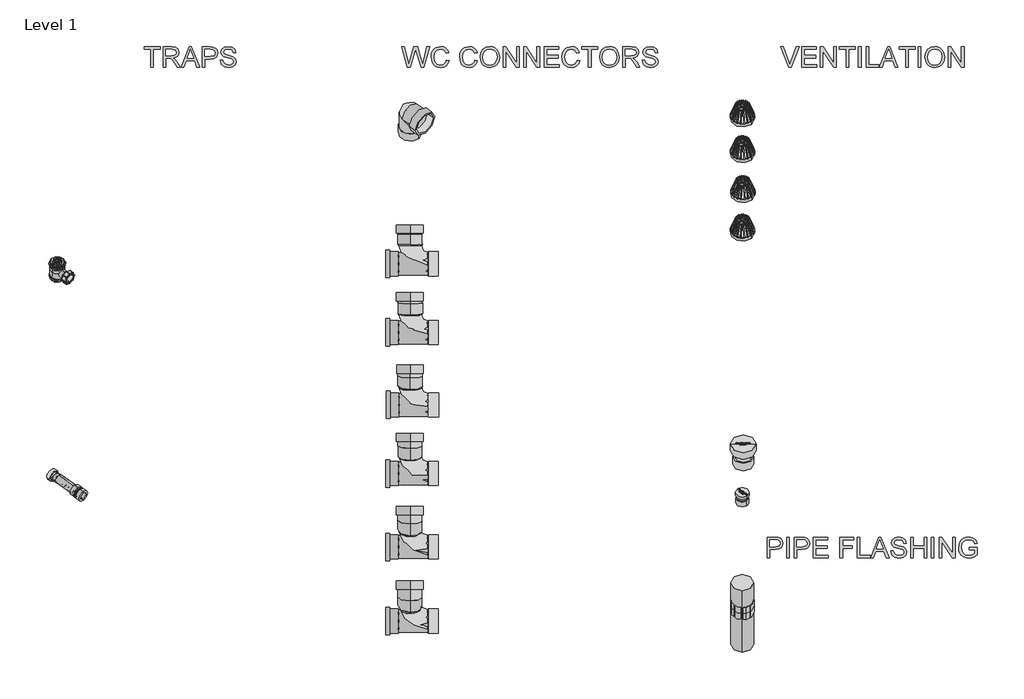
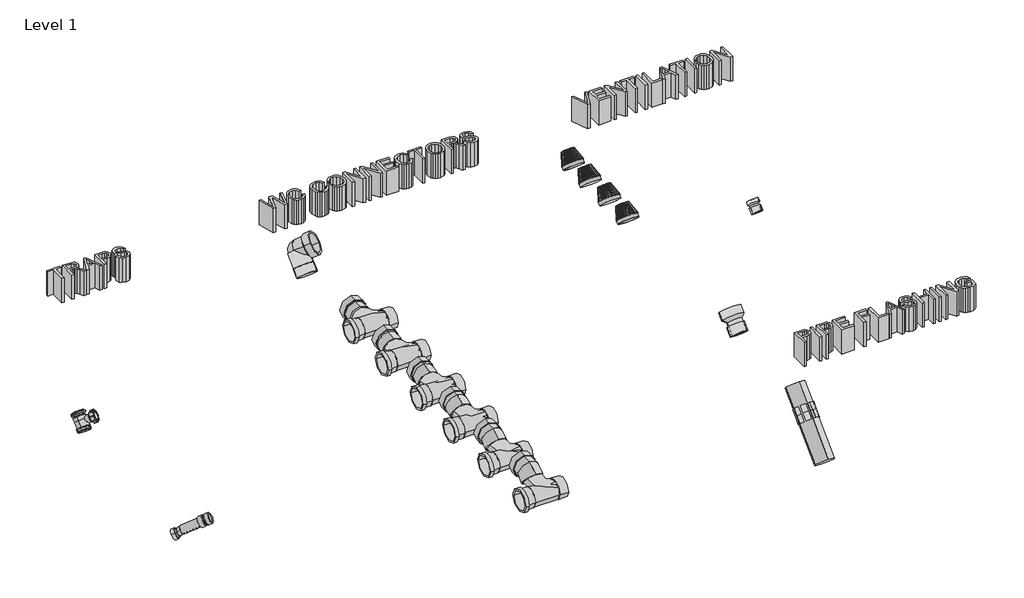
# One storey, incomplete: 16 pipe fittings, 4 proxies, 1 pipe segment, 1 valve.
"""IFC4 building model written with IfcOpenShell, lengths in millimetres."""

from ifc_helpers import new_model, si_unit, point, frame, frame_2d, origin, origin_with_axes, place, context, project, spatial, polyline, circle_curve, trimmed, segment, composite_curve, outline, extrude, transform, mapped, element, save
from components import pipe_fitting_c52e34fa, pipe_fitting_864deae3, pipe_fitting_f842854c, pipe_fitting_1e764480, pipe_fitting_d5c03c71, pipe_fitting_f81a362b, pipe_fitting_5220689f, pipe_fitting_509c5175, pipe_fitting_8c2a417e, pipe_fitting_55bd5c23, shower_trap_40_e6af812f, straight_f1ba9349, wc_connector_90_f06ec1d6, var_de22d4bc, var_55d9fc44

model = new_model("IFC4")

# Units and contexts
model_context = context("Model", 3, world=origin())
ifc_project = project(units=[si_unit("LENGTHUNIT", "METRE", prefix="MILLI")], contexts=[model_context])

# Site, building, storey
site = spatial("IfcSite", under=ifc_project)
building = spatial("IfcBuilding", under=site)
storey = spatial("IfcBuildingStorey", under=building, Name="Level 1", Elevation=0.0)

# Proxies
placement = place(None, origin())
element("IfcBuildingElementProxy", 1, Name="Wavin Types", ObjectType="Wavin Types", at=placement, inside=storey, context=model_context, shape_type="SweptSolid", body=[
    extrude(outline(polyline([(1715.790358, 3300.2326702), (1715.790358, 3386.3865164), (1683.4826657, 3386.3865164), (1683.4826657, 3398.6942087), (1760.4057427, 3398.6942087), (1760.4057427, 3386.3865164), (1728.0980504, 3386.3865164), (1728.0980504, 3300.2326702), (1715.790358, 3300.2326702)])), origin_with_axes(), (0.0, 0.0, 1.0), 150.0),
    extrude(outline(polyline([(1774.2518965, 3300.2326702), (1774.2518965, 3398.6942087), (1816.6797811, 3398.6942087), (1836.3793004, 3396.0379587), (1847.1485311, 3386.6389202), (1851.1749734, 3371.7470933), (1849.5073052, 3362.0475741), (1844.5043004, 3354.0067087), (1836.0157186, 3348.111276), (1823.8913196, 3344.8480549), (1830.8865119, 3339.5836318), (1840.8624734, 3326.9153625), (1857.2807427, 3300.2326702), (1842.977858, 3300.2326702), (1830.165358, 3320.6413241), (1820.9105504, 3334.1509395), (1814.4081465, 3340.533151), (1808.5547811, 3342.876901), (1801.415358, 3343.3095933), (1786.5595888, 3343.3095933), (1786.5595888, 3300.2326702), (1774.2518965, 3300.2326702)]), holes=[polyline([(1786.5595888, 3355.6172856), (1814.1076657, 3355.6172856), (1828.1581465, 3357.3600741), (1836.1389157, 3362.9369972), (1838.8672811, 3371.2903625), (1833.6629542, 3382.1317087), (1817.2086273, 3386.3865164), (1786.5595888, 3386.3865164), (1786.5595888, 3355.6172856)])]), origin_with_axes(), (0.0, 0.0, 1.0), 150.0),
    extrude(outline(polyline([(1861.2470888, 3300.2326702), (1900.5499734, 3398.6942087), (1911.0307427, 3398.6942087), (1950.3336273, 3300.2326702), (1937.3288196, 3300.2326702), (1926.0547811, 3331.001901), (1885.5018965, 3331.001901), (1874.2518965, 3300.2326702), (1861.2470888, 3300.2326702)]), holes=[polyline([(1890.0211273, 3343.3095933), (1921.5595888, 3343.3095933), (1912.6893965, 3367.5163241), (1905.790358, 3386.3865164), (1899.6605504, 3369.6317087), (1890.0211273, 3343.3095933)])]), origin_with_axes(), (0.0, 0.0, 1.0), 150.0),
    extrude(outline(polyline([(1963.4826657, 3300.2326702), (1963.4826657, 3398.6942087), (1999.9730504, 3398.6942087), (2014.6845888, 3397.7567087), (2026.6437234, 3393.1533433), (2034.3961273, 3383.6341125), (2037.3288196, 3370.2086318), (2035.3486513, 3358.6040645), (2029.4081465, 3348.9345933), (2018.2993725, 3342.408151), (2000.8143965, 3340.2326702), (1975.790358, 3340.2326702), (1975.790358, 3300.2326702), (1963.4826657, 3300.2326702)]), holes=[polyline([(1975.790358, 3352.5403625), (2001.5355504, 3352.5403625), (2019.6605504, 3357.0595933), (2023.680983, 3362.4982952), (2025.0211273, 3369.7759395), (2021.8600696, 3379.9682472), (2013.5547811, 3385.5451702), (2001.2470888, 3386.3865164), (1975.790358, 3386.3865164), (1975.790358, 3352.5403625)])]), origin_with_axes(), (0.0, 0.0, 1.0), 150.0),
    extrude(outline(polyline([(2049.6365119, 3334.0788241), (2061.9442042, 3334.0788241), (2065.9105504, 3321.7591125), (2075.5980504, 3313.970651), (2090.3576657, 3311.001901), (2103.2182427, 3313.2494972), (2111.5235311, 3319.4273818), (2114.2518965, 3327.6845933), (2112.2086273, 3335.3648818), (2103.8432427, 3340.9538241), (2085.9225696, 3345.6533433), (2066.6317042, 3351.7230549), (2056.1629542, 3360.8817087), (2052.713435, 3373.1172856), (2056.9802619, 3387.0475741), (2069.4442042, 3396.8793049), (2087.6893965, 3400.2326702), (2107.1605504, 3396.7230549), (2120.1413196, 3386.4105549), (2125.0211273, 3371.001901), (2112.713435, 3371.001901), (2105.7422811, 3383.6461318), (2088.1701657, 3387.9249779), (2070.5499734, 3383.6942087), (2065.0211273, 3373.4778625), (2068.9393965, 3364.9442087), (2089.0355504, 3358.0692087), (2110.8143965, 3351.8913241), (2122.7254542, 3341.9153625), (2126.5595888, 3327.9970933), (2122.1485311, 3313.2735356), (2109.4562234, 3302.5283433), (2090.838435, 3298.6942087), (2068.8552619, 3302.8288241), (2054.9490119, 3315.2807472), (2049.6365119, 3334.0788241)])), origin_with_axes(), (0.0, 0.0, 1.0), 150.0),
])
element("IfcBuildingElementProxy", 2, Name="Wavin Types", ObjectType="Wavin Types", at=placement, inside=storey, context=model_context, shape_type="SweptSolid", body=[
    extrude(outline(polyline([(2949.6017625, 3300.2326702), (2922.750801, 3398.6942087), (2935.4431087, 3398.6942087), (2951.0200318, 3333.9826702), (2955.8277241, 3314.0067087), (2960.9719549, 3331.6749779), (2980.4911856, 3398.6942087), (2998.7844549, 3398.6942087), (3012.9671472, 3350.1124779), (3023.5200318, 3314.0067087), (3028.1834933, 3333.4057472), (3043.9046472, 3398.6942087), (3056.5969549, 3398.6942087), (3029.7219549, 3300.2326702), (3016.5729164, 3300.2326702), (2992.9671472, 3376.1942087), (2989.6738779, 3386.7951702), (2985.9719549, 3374.0307472), (2964.4575318, 3300.2326702), (2949.6017625, 3300.2326702)])), origin_with_axes(), (0.0, 0.0, 1.0), 150.0),
    extrude(outline(polyline([(3138.1354164, 3335.2326702), (3150.4431087, 3332.0595933), (3144.7640222, 3317.7176462), (3135.8517625, 3307.2398818), (3124.1450318, 3300.830627), (3110.0825318, 3298.6942087), (3095.8066904, 3300.3107952), (3084.469551, 3305.1605549), (3075.7796472, 3313.0752183), (3069.4455125, 3323.8865164), (3064.2892625, 3350.2086318), (3065.7465943, 3364.5656029), (3070.1185895, 3376.9634395), (3077.1768827, 3387.0085116), (3086.6931087, 3394.3071895), (3110.3469549, 3400.2326702), (3123.8415462, 3398.3156029), (3134.9983972, 3392.564401), (3143.46895, 3383.3336318), (3148.9046472, 3370.9778625), (3136.5969549, 3368.0451702), (3126.500801, 3383.1773818), (3109.8661856, 3387.9249779), (3090.6113779, 3382.6605549), (3079.7339741, 3368.5259395), (3076.5969549, 3350.2326702), (3080.3108972, 3329.0307472), (3091.8733972, 3315.4850741), (3108.8565702, 3311.001901), (3119.1300077, 3312.5283433), (3127.6907049, 3317.1076702), (3134.1540462, 3324.6918049), (3138.1354164, 3335.2326702)])), origin_with_axes(), (0.0, 0.0, 1.0), 150.0),
    extrude(outline(polyline([(3275.0584933, 3335.2326702), (3287.3661856, 3332.0595933), (3281.6870991, 3317.7176462), (3272.7748395, 3307.2398818), (3261.0681087, 3300.830627), (3247.0056087, 3298.6942087), (3232.7297674, 3300.3107952), (3221.3926279, 3305.1605549), (3212.7027241, 3313.0752183), (3206.3685895, 3323.8865164), (3201.2123395, 3350.2086318), (3202.6696712, 3364.5656029), (3207.0416664, 3376.9634395), (3214.0999597, 3387.0085116), (3223.6161856, 3394.3071895), (3247.2700318, 3400.2326702), (3260.7646231, 3398.3156029), (3271.9214741, 3392.564401), (3280.392027, 3383.3336318), (3285.8277241, 3370.9778625), (3273.5200318, 3368.0451702), (3263.4238779, 3383.1773818), (3246.7892625, 3387.9249779), (3227.5344549, 3382.6605549), (3216.657051, 3368.5259395), (3213.5200318, 3350.2326702), (3217.2339741, 3329.0307472), (3228.7964741, 3315.4850741), (3245.7796472, 3311.001901), (3256.0530847, 3312.5283433), (3264.6137818, 3317.1076702), (3271.0771231, 3324.6918049), (3275.0584933, 3335.2326702)])), origin_with_axes(), (0.0, 0.0, 1.0), 150.0),
    extrude(outline(polyline([(3299.6738779, 3348.1653625), (3302.9551279, 3369.9381991), (3312.7988779, 3386.4105549), (3327.828926, 3396.7771414), (3346.6690702, 3400.2326702), (3359.5837337, 3398.6100741), (3371.1642625, 3393.7422856), (3380.7796472, 3385.9718529), (3387.7988779, 3375.6413241), (3393.5200318, 3349.2951702), (3392.0146231, 3335.1545452), (3387.4983972, 3322.5884395), (3380.2207529, 3312.2398818), (3370.4310895, 3304.751901), (3346.5969549, 3298.6942087), (3333.4839741, 3300.3678866), (3321.8373395, 3305.3889202), (3312.2459933, 3313.3035837), (3305.2988779, 3323.658151), (3299.6738779, 3348.1653625)]), holes=[polyline([(3311.9815702, 3348.0451702), (3314.4425077, 3332.642526), (3321.8253202, 3320.9057472), (3332.922075, 3313.4778625), (3346.5248395, 3311.001901), (3360.3259212, 3313.501901), (3371.4407049, 3321.001901), (3378.7694308, 3333.0992568), (3381.2123395, 3349.3913241), (3377.0296472, 3369.7038241), (3364.8060895, 3383.1533433), (3346.7411856, 3387.9249779), (3333.5020029, 3385.6263), (3322.2459933, 3378.7302664), (3314.547676, 3366.4616366), (3311.9815702, 3348.0451702)])]), origin_with_axes(), (0.0, 0.0, 1.0), 150.0),
    extrude(outline(polyline([(3410.4431087, 3300.2326702), (3410.4431087, 3398.6942087), (3423.6161856, 3398.6942087), (3475.0584933, 3320.689401), (3475.0584933, 3398.6942087), (3487.3661856, 3398.6942087), (3487.3661856, 3300.2326702), (3474.1931087, 3300.2326702), (3422.750801, 3378.2615164), (3422.750801, 3300.2326702), (3410.4431087, 3300.2326702)])), origin_with_axes(), (0.0, 0.0, 1.0), 150.0),
    extrude(outline(polyline([(3508.9046472, 3300.2326702), (3508.9046472, 3398.6942087), (3522.0777241, 3398.6942087), (3573.5200318, 3320.689401), (3573.5200318, 3398.6942087), (3585.8277241, 3398.6942087), (3585.8277241, 3300.2326702), (3572.6546472, 3300.2326702), (3521.2123395, 3378.2615164), (3521.2123395, 3300.2326702), (3508.9046472, 3300.2326702)])), origin_with_axes(), (0.0, 0.0, 1.0), 150.0),
    extrude(outline(polyline([(3607.3661856, 3300.2326702), (3607.3661856, 3398.6942087), (3678.1354164, 3398.6942087), (3678.1354164, 3386.3865164), (3619.6738779, 3386.3865164), (3619.6738779, 3357.1557472), (3675.0584933, 3357.1557472), (3675.0584933, 3344.8480549), (3619.6738779, 3344.8480549), (3619.6738779, 3312.5403625), (3679.6738779, 3312.5403625), (3679.6738779, 3300.2326702), (3607.3661856, 3300.2326702)])), origin_with_axes(), (0.0, 0.0, 1.0), 150.0),
    extrude(outline(polyline([(3767.3661856, 3335.2326702), (3779.6738779, 3332.0595933), (3773.9947914, 3317.7176462), (3765.0825318, 3307.2398818), (3753.375801, 3300.830627), (3739.313301, 3298.6942087), (3725.0374597, 3300.3107952), (3713.7003202, 3305.1605549), (3705.0104164, 3313.0752183), (3698.6762818, 3323.8865164), (3693.5200318, 3350.2086318), (3694.9773635, 3364.5656029), (3699.3493587, 3376.9634395), (3706.407652, 3387.0085116), (3715.9238779, 3394.3071895), (3739.5777241, 3400.2326702), (3753.0723154, 3398.3156029), (3764.2291664, 3392.564401), (3772.6997193, 3383.3336318), (3778.1354164, 3370.9778625), (3765.8277241, 3368.0451702), (3755.7315702, 3383.1773818), (3739.0969549, 3387.9249779), (3719.8421472, 3382.6605549), (3708.9647433, 3368.5259395), (3705.8277241, 3350.2326702), (3709.5416664, 3329.0307472), (3721.1041664, 3315.4850741), (3738.0873395, 3311.001901), (3748.360777, 3312.5283433), (3756.9214741, 3317.1076702), (3763.3848154, 3324.6918049), (3767.3661856, 3335.2326702)])), origin_with_axes(), (0.0, 0.0, 1.0), 150.0),
    extrude(outline(polyline([(3821.2123395, 3300.2326702), (3821.2123395, 3386.3865164), (3788.9046472, 3386.3865164), (3788.9046472, 3398.6942087), (3865.8277241, 3398.6942087), (3865.8277241, 3386.3865164), (3833.5200318, 3386.3865164), (3833.5200318, 3300.2326702), (3821.2123395, 3300.2326702)])), origin_with_axes(), (0.0, 0.0, 1.0), 150.0),
    extrude(outline(polyline([(3875.0584933, 3348.1653625), (3878.3397433, 3369.9381991), (3888.1834933, 3386.4105549), (3903.2135414, 3396.7771414), (3922.0536856, 3400.2326702), (3934.9683491, 3398.6100741), (3946.5488779, 3393.7422856), (3956.1642625, 3385.9718529), (3963.1834933, 3375.6413241), (3968.9046472, 3349.2951702), (3967.3992385, 3335.1545452), (3962.8830125, 3322.5884395), (3955.6053683, 3312.2398818), (3945.8157049, 3304.751901), (3921.9815702, 3298.6942087), (3908.8685895, 3300.3678866), (3897.2219549, 3305.3889202), (3887.6306087, 3313.3035837), (3880.6834933, 3323.658151), (3875.0584933, 3348.1653625)]), holes=[polyline([(3887.3661856, 3348.0451702), (3889.8271231, 3332.642526), (3897.2099356, 3320.9057472), (3908.3066904, 3313.4778625), (3921.9094549, 3311.001901), (3935.7105366, 3313.501901), (3946.8253202, 3321.001901), (3954.1540462, 3333.0992568), (3956.5969549, 3349.3913241), (3952.4142625, 3369.7038241), (3940.1907049, 3383.1533433), (3922.125801, 3387.9249779), (3908.8866183, 3385.6263), (3897.6306087, 3378.7302664), (3889.9322914, 3366.4616366), (3887.3661856, 3348.0451702)])]), origin_with_axes(), (0.0, 0.0, 1.0), 150.0),
    extrude(outline(polyline([(3985.8277241, 3300.2326702), (3985.8277241, 3398.6942087), (4028.2556087, 3398.6942087), (4047.9551279, 3396.0379587), (4058.7243587, 3386.6389202), (4062.750801, 3371.7470933), (4061.0831327, 3362.0475741), (4056.0801279, 3354.0067087), (4047.5915462, 3348.111276), (4035.4671472, 3344.8480549), (4042.4623395, 3339.5836318), (4052.438301, 3326.9153625), (4068.8565702, 3300.2326702), (4054.5536856, 3300.2326702), (4041.7411856, 3320.6413241), (4032.4863779, 3334.1509395), (4025.9839741, 3340.533151), (4020.1306087, 3342.876901), (4012.9911856, 3343.3095933), (3998.1354164, 3343.3095933), (3998.1354164, 3300.2326702), (3985.8277241, 3300.2326702)]), holes=[polyline([(3998.1354164, 3355.6172856), (4025.6834933, 3355.6172856), (4039.7339741, 3357.3600741), (4047.7147433, 3362.9369972), (4050.4431087, 3371.2903625), (4045.2387818, 3382.1317087), (4028.7844549, 3386.3865164), (3998.1354164, 3386.3865164), (3998.1354164, 3355.6172856)])]), origin_with_axes(), (0.0, 0.0, 1.0), 150.0),
    extrude(outline(polyline([(4079.6738779, 3334.0788241), (4091.9815702, 3334.0788241), (4095.9479164, 3321.7591125), (4105.6354164, 3313.970651), (4120.3950318, 3311.001901), (4133.2556087, 3313.2494972), (4141.5608972, 3319.4273818), (4144.2892625, 3327.6845933), (4142.2459933, 3335.3648818), (4133.8806087, 3340.9538241), (4115.9599356, 3345.6533433), (4096.6690702, 3351.7230549), (4086.2003202, 3360.8817087), (4082.750801, 3373.1172856), (4087.0176279, 3387.0475741), (4099.4815702, 3396.8793049), (4117.7267625, 3400.2326702), (4137.1979164, 3396.7230549), (4150.1786856, 3386.4105549), (4155.0584933, 3371.001901), (4142.750801, 3371.001901), (4135.7796472, 3383.6461318), (4118.2075318, 3387.9249779), (4100.5873395, 3383.6942087), (4095.0584933, 3373.4778625), (4098.9767625, 3364.9442087), (4119.0729164, 3358.0692087), (4140.8517625, 3351.8913241), (4152.7628202, 3341.9153625), (4156.5969549, 3327.9970933), (4152.1858972, 3313.2735356), (4139.4935895, 3302.5283433), (4120.875801, 3298.6942087), (4098.8926279, 3302.8288241), (4084.9863779, 3315.2807472), (4079.6738779, 3334.0788241)])), origin_with_axes(), (0.0, 0.0, 1.0), 150.0),
])
element("IfcBuildingElementProxy", 3, Name="Wavin Types", ObjectType="Wavin Types", at=placement, inside=storey, context=model_context, shape_type="SweptSolid", body=[
    extrude(outline(polyline([(4784.9113706, 3300.2326702), (4745.7286782, 3398.6942087), (4758.9017552, 3398.6942087), (4785.1277167, 3327.7567087), (4790.4402167, 3311.7711318), (4795.6806013, 3327.7567087), (4821.9786782, 3398.6942087), (4835.1517552, 3398.6942087), (4797.6277167, 3300.2326702), (4784.9113706, 3300.2326702)])), origin_with_axes(), (0.0, 0.0, 1.0), 150.0),
    extrude(outline(polyline([(4846.5940629, 3300.2326702), (4846.5940629, 3398.6942087), (4917.3632936, 3398.6942087), (4917.3632936, 3386.3865164), (4858.9017552, 3386.3865164), (4858.9017552, 3357.1557472), (4914.2863706, 3357.1557472), (4914.2863706, 3344.8480549), (4858.9017552, 3344.8480549), (4858.9017552, 3312.5403625), (4918.9017552, 3312.5403625), (4918.9017552, 3300.2326702), (4846.5940629, 3300.2326702)])), origin_with_axes(), (0.0, 0.0, 1.0), 150.0),
    extrude(outline(polyline([(4937.3632936, 3300.2326702), (4937.3632936, 3398.6942087), (4950.5363706, 3398.6942087), (5001.9786782, 3320.689401), (5001.9786782, 3398.6942087), (5014.2863706, 3398.6942087), (5014.2863706, 3300.2326702), (5001.1132936, 3300.2326702), (4949.6709859, 3378.2615164), (4949.6709859, 3300.2326702), (4937.3632936, 3300.2326702)])), origin_with_axes(), (0.0, 0.0, 1.0), 150.0),
    extrude(outline(polyline([(5060.4402167, 3300.2326702), (5060.4402167, 3386.3865164), (5028.1325244, 3386.3865164), (5028.1325244, 3398.6942087), (5105.0556013, 3398.6942087), (5105.0556013, 3386.3865164), (5072.747909, 3386.3865164), (5072.747909, 3300.2326702), (5060.4402167, 3300.2326702)])), origin_with_axes(), (0.0, 0.0, 1.0), 150.0),
    extrude(outline(polyline([(5120.4402167, 3300.2326702), (5120.4402167, 3398.6942087), (5132.747909, 3398.6942087), (5132.747909, 3300.2326702), (5120.4402167, 3300.2326702)])), origin_with_axes(), (0.0, 0.0, 1.0), 150.0),
    extrude(outline(polyline([(5157.3632936, 3300.2326702), (5157.3632936, 3398.6942087), (5169.6709859, 3398.6942087), (5169.6709859, 3312.5403625), (5218.9017552, 3312.5403625), (5218.9017552, 3300.2326702), (5157.3632936, 3300.2326702)])), origin_with_axes(), (0.0, 0.0, 1.0), 150.0),
    extrude(outline(polyline([(5221.2815629, 3300.2326702), (5260.5844475, 3398.6942087), (5271.0652167, 3398.6942087), (5310.3681013, 3300.2326702), (5297.3632936, 3300.2326702), (5286.0892552, 3331.001901), (5245.5363706, 3331.001901), (5234.2863706, 3300.2326702), (5221.2815629, 3300.2326702)]), holes=[polyline([(5250.0556013, 3343.3095933), (5281.5940629, 3343.3095933), (5272.7238706, 3367.5163241), (5265.8248321, 3386.3865164), (5259.6950244, 3369.6317087), (5250.0556013, 3343.3095933)])]), origin_with_axes(), (0.0, 0.0, 1.0), 150.0),
    extrude(outline(polyline([(5348.1325244, 3300.2326702), (5348.1325244, 3386.3865164), (5315.8248321, 3386.3865164), (5315.8248321, 3398.6942087), (5392.747909, 3398.6942087), (5392.747909, 3386.3865164), (5360.4402167, 3386.3865164), (5360.4402167, 3300.2326702), (5348.1325244, 3300.2326702)])), origin_with_axes(), (0.0, 0.0, 1.0), 150.0),
    extrude(outline(polyline([(5408.1325244, 3300.2326702), (5408.1325244, 3398.6942087), (5420.4402167, 3398.6942087), (5420.4402167, 3300.2326702), (5408.1325244, 3300.2326702)])), origin_with_axes(), (0.0, 0.0, 1.0), 150.0),
    extrude(outline(polyline([(5440.4402167, 3348.1653625), (5443.7214667, 3369.9381991), (5453.5652167, 3386.4105549), (5468.5952648, 3396.7771414), (5487.435409, 3400.2326702), (5500.3500725, 3398.6100741), (5511.9306013, 3393.7422856), (5521.5459859, 3385.9718529), (5528.5652167, 3375.6413241), (5534.2863706, 3349.2951702), (5532.7809619, 3335.1545452), (5528.2647359, 3322.5884395), (5520.9870917, 3312.2398818), (5511.1974282, 3304.751901), (5487.3632936, 3298.6942087), (5474.2503129, 3300.3678866), (5462.6036782, 3305.3889202), (5453.0123321, 3313.3035837), (5446.0652167, 3323.658151), (5440.4402167, 3348.1653625)]), holes=[polyline([(5452.747909, 3348.0451702), (5455.2088465, 3332.642526), (5462.591659, 3320.9057472), (5473.6884138, 3313.4778625), (5487.2911782, 3311.001901), (5501.09226, 3313.501901), (5512.2070436, 3321.001901), (5519.5357696, 3333.0992568), (5521.9786782, 3349.3913241), (5517.7959859, 3369.7038241), (5505.5724282, 3383.1533433), (5487.5075244, 3387.9249779), (5474.2683417, 3385.6263), (5463.0123321, 3378.7302664), (5455.3140148, 3366.4616366), (5452.747909, 3348.0451702)])]), origin_with_axes(), (0.0, 0.0, 1.0), 150.0),
    extrude(outline(polyline([(5551.2094475, 3300.2326702), (5551.2094475, 3398.6942087), (5564.3825244, 3398.6942087), (5615.8248321, 3320.689401), (5615.8248321, 3398.6942087), (5628.1325244, 3398.6942087), (5628.1325244, 3300.2326702), (5614.9594475, 3300.2326702), (5563.5171398, 3378.2615164), (5563.5171398, 3300.2326702), (5551.2094475, 3300.2326702)])), origin_with_axes(), (0.0, 0.0, 1.0), 150.0),
])
element("IfcBuildingElementProxy", 4, Name="Wavin Types", ObjectType="Wavin Types", at=placement, inside=storey, context=model_context, shape_type="SweptSolid", body=[
    extrude(outline(polyline([(4682.0568337, 938.3717829), (4682.0568337, 1036.8333213), (4718.5472183, 1036.8333213), (4733.2587568, 1035.8958213), (4745.2178914, 1031.292456), (4752.9702952, 1021.7732252), (4755.9029875, 1008.3477444), (4753.9228193, 996.7431771), (4747.9823145, 987.073706), (4736.8735404, 980.5472637), (4719.3885645, 978.3717829), (4694.364526, 978.3717829), (4694.364526, 938.3717829), (4682.0568337, 938.3717829)]), holes=[polyline([(4694.364526, 990.6794752), (4720.1097183, 990.6794752), (4738.2347183, 995.198706), (4742.255151, 1000.6374079), (4743.5952952, 1007.9150521), (4740.4342375, 1018.1073598), (4732.1289491, 1023.6842829), (4719.8212568, 1024.525629), (4694.364526, 1024.525629), (4694.364526, 990.6794752)])]), origin_with_axes(), (0.0, 0.0, 1.0), 150.0),
    extrude(outline(polyline([(4774.364526, 938.3717829), (4774.364526, 1036.8333213), (4786.6722183, 1036.8333213), (4786.6722183, 938.3717829), (4774.364526, 938.3717829)])), origin_with_axes(), (0.0, 0.0, 1.0), 150.0),
    extrude(outline(polyline([(4811.2876029, 938.3717829), (4811.2876029, 1036.8333213), (4847.7779875, 1036.8333213), (4862.489526, 1035.8958213), (4874.4486606, 1031.292456), (4882.2010645, 1021.7732252), (4885.1337568, 1008.3477444), (4883.1535885, 996.7431771), (4877.2130837, 987.073706), (4866.1043096, 980.5472637), (4848.6193337, 978.3717829), (4823.5952952, 978.3717829), (4823.5952952, 938.3717829), (4811.2876029, 938.3717829)]), holes=[polyline([(4823.5952952, 990.6794752), (4849.3404875, 990.6794752), (4867.4654875, 995.198706), (4871.4859202, 1000.6374079), (4872.8260645, 1007.9150521), (4869.6650068, 1018.1073598), (4861.3597183, 1023.6842829), (4849.052026, 1024.525629), (4823.5952952, 1024.525629), (4823.5952952, 990.6794752)])]), origin_with_axes(), (0.0, 0.0, 1.0), 150.0),
    extrude(outline(polyline([(4902.0568337, 938.3717829), (4902.0568337, 1036.8333213), (4972.8260645, 1036.8333213), (4972.8260645, 1024.525629), (4914.364526, 1024.525629), (4914.364526, 995.2948598), (4969.7491414, 995.2948598), (4969.7491414, 982.9871675), (4914.364526, 982.9871675), (4914.364526, 950.6794752), (4974.364526, 950.6794752), (4974.364526, 938.3717829), (4902.0568337, 938.3717829)])), origin_with_axes(), (0.0, 0.0, 1.0), 150.0),
    extrude(outline(polyline([(5031.2876029, 938.3717829), (5031.2876029, 1036.8333213), (5097.4414491, 1036.8333213), (5097.4414491, 1024.525629), (5043.5952952, 1024.525629), (5043.5952952, 995.2948598), (5089.7491414, 995.2948598), (5089.7491414, 982.9871675), (5043.5952952, 982.9871675), (5043.5952952, 938.3717829), (5031.2876029, 938.3717829)])), origin_with_axes(), (0.0, 0.0, 1.0), 150.0),
    extrude(outline(polyline([(5114.364526, 938.3717829), (5114.364526, 1036.8333213), (5126.6722183, 1036.8333213), (5126.6722183, 950.6794752), (5175.9029875, 950.6794752), (5175.9029875, 938.3717829), (5114.364526, 938.3717829)])), origin_with_axes(), (0.0, 0.0, 1.0), 150.0),
    extrude(outline(polyline([(5178.2827952, 938.3717829), (5217.5856798, 1036.8333213), (5228.0664491, 1036.8333213), (5267.3693337, 938.3717829), (5254.364526, 938.3717829), (5243.0904875, 969.1410137), (5202.5376029, 969.1410137), (5191.2876029, 938.3717829), (5178.2827952, 938.3717829)]), holes=[polyline([(5207.0568337, 981.448706), (5238.5952952, 981.448706), (5229.7251029, 1005.6554367), (5222.8260645, 1024.525629), (5216.6962568, 1007.7708213), (5207.0568337, 981.448706)])]), origin_with_axes(), (0.0, 0.0, 1.0), 150.0),
    extrude(outline(polyline([(5275.9029875, 972.2179367), (5288.2106798, 972.2179367), (5292.177026, 959.8982252), (5301.864526, 952.1097637), (5316.6241414, 949.1410137), (5329.4847183, 951.3886098), (5337.7900068, 957.5664944), (5340.5183721, 965.823706), (5338.4751029, 973.5039944), (5330.1097183, 979.0929367), (5312.1890452, 983.792456), (5292.8981798, 989.8621675), (5282.4294298, 999.0208213), (5278.9799106, 1011.2563983), (5283.2467375, 1025.1866867), (5295.7106798, 1035.0184175), (5313.9558721, 1038.3717829), (5333.427026, 1034.8621675), (5346.4077952, 1024.5496675), (5351.2876029, 1009.1410137), (5338.9799106, 1009.1410137), (5332.0087568, 1021.7852444), (5314.4366414, 1026.0640906), (5296.8164491, 1021.8333213), (5291.2876029, 1011.6169752), (5295.2058721, 1003.0833213), (5315.302026, 996.2083213), (5337.0808721, 990.0304367), (5348.9919298, 980.0544752), (5352.8260645, 966.136206), (5348.4150068, 951.4126483), (5335.7226991, 940.667456), (5317.1049106, 936.8333213), (5295.1217375, 940.9679367), (5281.2154875, 953.4198598), (5275.9029875, 972.2179367)])), origin_with_axes(), (0.0, 0.0, 1.0), 150.0),
    extrude(outline(polyline([(5371.2876029, 938.3717829), (5371.2876029, 1036.8333213), (5383.5952952, 1036.8333213), (5383.5952952, 996.8333213), (5435.9029875, 996.8333213), (5435.9029875, 1036.8333213), (5448.2106798, 1036.8333213), (5448.2106798, 938.3717829), (5435.9029875, 938.3717829), (5435.9029875, 984.525629), (5383.5952952, 984.525629), (5383.5952952, 938.3717829), (5371.2876029, 938.3717829)])), origin_with_axes(), (0.0, 0.0, 1.0), 150.0),
    extrude(outline(polyline([(5471.2876029, 938.3717829), (5471.2876029, 1036.8333213), (5483.5952952, 1036.8333213), (5483.5952952, 938.3717829), (5471.2876029, 938.3717829)])), origin_with_axes(), (0.0, 0.0, 1.0), 150.0),
    extrude(outline(polyline([(5508.2106798, 938.3717829), (5508.2106798, 1036.8333213), (5521.3837568, 1036.8333213), (5572.8260645, 958.8285137), (5572.8260645, 1036.8333213), (5585.1337568, 1036.8333213), (5585.1337568, 938.3717829), (5571.9606798, 938.3717829), (5520.5183721, 1016.400629), (5520.5183721, 938.3717829), (5508.2106798, 938.3717829)])), origin_with_axes(), (0.0, 0.0, 1.0), 150.0),
    extrude(outline(polyline([(5652.8260645, 976.8333213), (5652.8260645, 989.1410137), (5692.8260645, 989.1410137), (5692.8260645, 952.338129), (5673.0784683, 940.7275521), (5652.2010645, 936.8333213), (5638.3939731, 938.3807973), (5625.9150068, 943.0232252), (5615.5484202, 950.5983454), (5608.0784683, 960.9438983), (5603.5622423, 973.353754), (5602.0568337, 987.1217829), (5608.0544298, 1013.8886098), (5615.365127, 1024.7089223), (5625.302026, 1032.338129), (5637.4053914, 1036.8633694), (5651.2154875, 1038.3717829), (5670.4702952, 1034.8741867), (5683.9678914, 1025.1386098), (5691.4077952, 1008.8525521), (5680.0616414, 1005.6554367), (5674.4486606, 1017.0376483), (5664.8573145, 1023.6001483), (5651.0231798, 1026.0640906), (5635.2659683, 1023.4078406), (5624.5448145, 1016.4366867), (5618.2106798, 1006.9535137), (5614.364526, 987.6265906), (5618.9919298, 966.1722637), (5632.4534683, 953.3357252), (5651.2154875, 949.1410137), (5668.0544298, 952.3020713), (5680.5183721, 959.0448598), (5680.5183721, 976.8333213), (5652.8260645, 976.8333213)])), origin_with_axes(), (0.0, 0.0, 1.0), 150.0),
])

# Pipe fittings
pipe_fitting_shape = pipe_fitting_c52e34fa(model_context)
element("IfcPipeFitting", 5, ObjectType="Wavin_PipeAccessory_OsmaAccessoriesWcBranch : 16º", at=placement, inside=storey, context=model_context, shape_type="MappedRepresentation", body=[
    mapped(pipe_fitting_shape, transform((2964.3671067, 1674.5423044, 0.0), x_axis=(1.0, 0.0, 0.0), y_axis=(0.0, 1.0, 0.0), z_axis=(0.0, 0.0, 1.0))),
])
pipe_fitting_2_shape = pipe_fitting_864deae3(model_context)
element("IfcPipeFitting", 6, ObjectType="Wavin_PipeAccessory_OsmaAccessoriesWcBranch : 23º", at=placement, inside=storey, context=model_context, shape_type="MappedRepresentation", body=[
    mapped(pipe_fitting_2_shape, transform((2962.9575597, 1343.9940488, 0.0), x_axis=(1.0, 0.0, 0.0), y_axis=(0.0, 1.0, 0.0), z_axis=(0.0, 0.0, 1.0))),
])
pipe_fitting_3_shape = pipe_fitting_f842854c(model_context)
element("IfcPipeFitting", 7, ObjectType="Wavin_PipeAccessory_OsmaAccessoriesWcBranch : 31º", at=placement, inside=storey, context=model_context, shape_type="MappedRepresentation", body=[
    mapped(pipe_fitting_3_shape, transform((2962.9575597, 991.1082287, 0.0), x_axis=(1.0, 0.0, 0.0), y_axis=(0.0, 1.0, 0.0), z_axis=(0.0, 0.0, 1.0))),
])
pipe_fitting_4_shape = pipe_fitting_1e764480(model_context)
element("IfcPipeFitting", 8, ObjectType="Wavin_PipeAccessory_OsmaAccessoriesWcBranch : 38º", at=placement, inside=storey, context=model_context, shape_type="MappedRepresentation", body=[
    mapped(pipe_fitting_4_shape, transform((2962.9575597, 633.9940488, 0.0), x_axis=(1.0, 0.0, 0.0), y_axis=(0.0, 1.0, 0.0), z_axis=(0.0, 0.0, 1.0))),
])
pipe_fitting_5_shape = pipe_fitting_d5c03c71(model_context)
pipe_fitting_6_shape = pipe_fitting_f81a362b(model_context)
element("IfcPipeFitting", 9, ObjectType="Wavin_PipeAccessory_OsmaAccessoriesBaloonGrating : Balloon Grating 82/110/160 - Grey", at=placement, inside=storey, context=model_context, shape_type="MappedRepresentation", body=[
    mapped(pipe_fitting_5_shape, transform((4562.1054796, 2896.6653525, 6.6479623), x_axis=(0.7071067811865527, -0.49999999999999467, 0.499999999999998), y_axis=(0.7071067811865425, 0.49999999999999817, -0.5000000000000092), z_axis=(0.0, 0.7071067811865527, 0.7071067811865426))),
    mapped(pipe_fitting_6_shape, transform((4562.1054796, 2896.6653525, 6.6479623), x_axis=(0.7071067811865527, -0.49999999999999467, 0.499999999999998), y_axis=(0.7071067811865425, 0.49999999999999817, -0.5000000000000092), z_axis=(0.0, 0.7071067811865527, 0.7071067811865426))),
])
pipe_fitting_7_shape = pipe_fitting_5220689f(model_context)
element("IfcPipeFitting", 10, ObjectType="Wavin_PipeAccessory_OsmaAccessoriesPipeFlash : Φ110 Vertical", at=placement, inside=storey, context=model_context, shape_type="MappedRepresentation", body=[
    mapped(pipe_fitting_7_shape, transform((4576.7526622, 670.9888786, -68.2857663), x_axis=(0.9618444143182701, 0.19346229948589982, -0.19346229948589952), y_axis=(0.0, 0.7071067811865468, 0.7071067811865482), z_axis=(0.2735970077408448, -0.6801267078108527, 0.6801267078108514))),
])
element("IfcPipeFitting", 11, ObjectType="Wavin_PipeAccessory_OsmaAccessoriesBaloonGrating : Balloon Grating 110 - Olive Grey", at=placement, inside=storey, context=model_context, shape_type="MappedRepresentation", body=[
    mapped(pipe_fitting_5_shape, transform((4564.0400024, 2704.1510903, 8.5824851), x_axis=(0.7071067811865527, -0.49999999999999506, 0.4999999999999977), y_axis=(0.7071067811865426, 0.4999999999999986, -0.5000000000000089), z_axis=(0.0, 0.7071067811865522, 0.7071067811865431))),
    mapped(pipe_fitting_6_shape, transform((4564.0400024, 2704.1510903, 8.5824851), x_axis=(0.7071067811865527, -0.49999999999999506, 0.4999999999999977), y_axis=(0.7071067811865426, 0.4999999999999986, -0.5000000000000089), z_axis=(0.0, 0.7071067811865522, 0.7071067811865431))),
])
element("IfcPipeFitting", 12, ObjectType="Wavin_PipeAccessory_OsmaAccessoriesBaloonGrating : Balloon Grating 110 - White", at=placement, inside=storey, context=model_context, shape_type="MappedRepresentation", body=[
    mapped(pipe_fitting_5_shape, transform((4562.1054796, 2518.2596904, 6.6479623), x_axis=(0.7071067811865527, -0.49999999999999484, 0.49999999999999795), y_axis=(0.7071067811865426, 0.4999999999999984, -0.5000000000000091), z_axis=(0.0, 0.7071067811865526, 0.7071067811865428))),
    mapped(pipe_fitting_6_shape, transform((4562.1054796, 2518.2596904, 6.6479623), x_axis=(0.7071067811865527, -0.49999999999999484, 0.49999999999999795), y_axis=(0.7071067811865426, 0.4999999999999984, -0.5000000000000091), z_axis=(0.0, 0.7071067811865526, 0.7071067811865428))),
])
pipe_fitting_8_shape = pipe_fitting_509c5175(model_context)
element("IfcPipeFitting", 13, ObjectType="Wavin_PipeAccessory_OsmaAccessoriesWcBranch : 8º", at=placement, inside=storey, context=model_context, shape_type="MappedRepresentation", body=[
    mapped(pipe_fitting_8_shape, transform((2962.9575597, 2023.9940488, 0.0), x_axis=(1.0, 0.0, 0.0), y_axis=(0.0, 1.0, 0.0), z_axis=(0.0, 0.0, 1.0))),
])
element("IfcPipeFitting", 14, ObjectType="Wavin_PipeAccessory_OsmaAccessoriesBaloonGrating : Balloon Grating 82/110 - Black", at=placement, inside=storey, context=model_context, shape_type="MappedRepresentation", body=[
    mapped(pipe_fitting_5_shape, transform((4562.1054796, 3068.0715438, 6.6479623), x_axis=(0.7071067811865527, -0.499999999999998, 0.4999999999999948), y_axis=(0.7071067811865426, 0.5000000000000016, -0.500000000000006), z_axis=(0.0, 0.7071067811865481, 0.7071067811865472))),
    mapped(pipe_fitting_6_shape, transform((4562.1054796, 3068.0715438, 6.6479623), x_axis=(0.7071067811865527, -0.499999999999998, 0.4999999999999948), y_axis=(0.7071067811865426, 0.5000000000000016, -0.500000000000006), z_axis=(0.0, 0.7071067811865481, 0.7071067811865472))),
])
pipe_fitting_9_shape = pipe_fitting_8c2a417e(model_context)
element("IfcPipeFitting", 15, ObjectType="Wavin_PipeAccessory_OsmaAccessoriesAbsAav : Air admitance valve 32/40/50", at=placement, inside=storey, context=model_context, shape_type="MappedRepresentation", body=[
    mapped(pipe_fitting_9_shape, transform((4561.7048268, 1227.4714574, 854.2153406), x_axis=(0.7071067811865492, -0.49999999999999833, 0.4999999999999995), y_axis=(0.707106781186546, 0.49999999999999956, -0.5000000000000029), z_axis=(0.0, 0.7071067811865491, 0.7071067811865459))),
])
pipe_fitting_10_shape = pipe_fitting_55bd5c23(model_context)
element("IfcPipeFitting", 16, ObjectType="Wavin_PipeAccessory_OsmaAccessoriesAbsAav : Air admitance valve 82/110", at=placement, inside=storey, context=model_context, shape_type="MappedRepresentation", body=[
    mapped(pipe_fitting_10_shape, transform((4566.2155333, 1427.1890703, 4.9791847), x_axis=(1.0, 0.0, 0.0), y_axis=(0.0, 0.7071067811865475, -0.7071067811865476), z_axis=(0.0, 0.7071067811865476, 0.7071067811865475))),
])
shower_trap_40_shape = shower_trap_40_e6af812f(model_context)
element("IfcPipeFitting", 17, ObjectType="Wavin_PipeAccessory_OsmaAccessoriesShowerTrap : Shower Trap 40", at=placement, inside=storey, context=model_context, shape_type="MappedRepresentation", body=[
    mapped(shower_trap_40_shape, transform((1265.2897612, 2325.0974835, 15.9454045), x_axis=(0.7071067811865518, -0.4999999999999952, 0.49999999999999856), y_axis=(0.7070839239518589, 0.49429837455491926, -0.505669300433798), z_axis=(0.005685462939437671, 0.7111041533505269, 0.7030636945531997))),
])
straight_shape = straight_f1ba9349(model_context)
element("IfcPipeFitting", 18, ObjectType="Wavin_PipeAccessory_OsmaAccessoriesWcBranch : Straight", at=placement, inside=storey, context=model_context, shape_type="MappedRepresentation", body=[
    mapped(straight_shape, transform((2962.9575597, 2353.9940488, 0.0), x_axis=(1.0, 0.0, 0.0), y_axis=(0.0, 1.0, 0.0), z_axis=(0.0, 0.0, 1.0))),
])
wc_connector_90_shape = wc_connector_90_f06ec1d6(model_context)
element("IfcPipeFitting", 19, ObjectType="Wavin_PipeAccessory_OsmaAccessoriesWcConnector90° : WC Connector 90", at=placement, inside=storey, context=model_context, shape_type="MappedRepresentation", body=[
    mapped(wc_connector_90_shape, transform((2964.3671067, 2984.9304152, -71.85294), x_axis=(-0.7071067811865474, -0.5000000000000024, 0.49999999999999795), y_axis=(0.0, 0.7071067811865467, 0.7071067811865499), z_axis=(-0.7071067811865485, 0.5000000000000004, -0.5000000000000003))),
])
var_shape = var_de22d4bc(model_context)
element("IfcPipeFitting", 20, ObjectType="Wavin_PipeAccessory_OsmaAccessoriesZDoNotUseHepvoWasteValve : var.", at=placement, inside=storey, context=model_context, shape_type="MappedRepresentation", body=[
    mapped(var_shape, transform((1271.5947891, 1320.6229435, -44.6311652), x_axis=(0.7071067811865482, -0.49999999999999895, 0.4999999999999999), y_axis=(0.0, 0.7071067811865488, 0.7071067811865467), z_axis=(-0.7071067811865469, -0.4999999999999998, 0.5000000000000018))),
])

# Pipe segment
element("IfcPipeSegment", 21, ObjectType="Default", at=placement, inside=storey, context=model_context, shape_type="SweptSolid", body=[
    extrude(outline(composite_curve([segment(trimmed(circle_curve(frame_2d((0.0, -55.0)), 55.0), [point((-55.0, -55.0))], [point((0.0, 0.0))], False, "CARTESIAN"), True, "CONTINUOUS"), segment(trimmed(circle_curve(frame_2d((0.0, -55.0)), 55.0), [point((0.0, 0.0))], [point((55.0, -55.0))], False, "CARTESIAN"), True, "CONTINUOUS"), segment(trimmed(circle_curve(frame_2d((0.0, -55.0)), 55.0), [point((55.0, -55.0))], [point((0.0, -110.0000001))], False, "CARTESIAN"), True, "CONTINUOUS"), segment(trimmed(circle_curve(frame_2d((0.0, -55.0)), 55.0), [point((0.0, -110.0000001))], [point((-55.0, -55.0))], False, "CARTESIAN"), True, "CONTINUOUS")], self_intersect=False)), frame((4561.7048268, 560.9946076, -330.8757211), z_axis=(0.0, 0.7071067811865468, 0.7071067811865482), x_axis=(1.0, 0.0, 0.0)), (0.0, 0.0, 1.0), 420.0),
])

# Valve
var_2_shape = var_55d9fc44(model_context)
element("IfcValve", 22, ObjectType="Wavin_PipeAccessory_OsmaAccessoriesZDoNotUseHepvoRunningAdaptor : var.", at=placement, inside=storey, context=model_context, shape_type="MappedRepresentation", body=[
    mapped(var_2_shape, transform((1359.9831367, 1258.1229435, 17.8688348), x_axis=(0.7071067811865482, -0.49999999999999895, 0.4999999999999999), y_axis=(0.0, 0.7071067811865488, 0.7071067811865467), z_axis=(-0.7071067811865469, -0.4999999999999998, 0.5000000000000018))),
])

save(model, "model.ifc")
